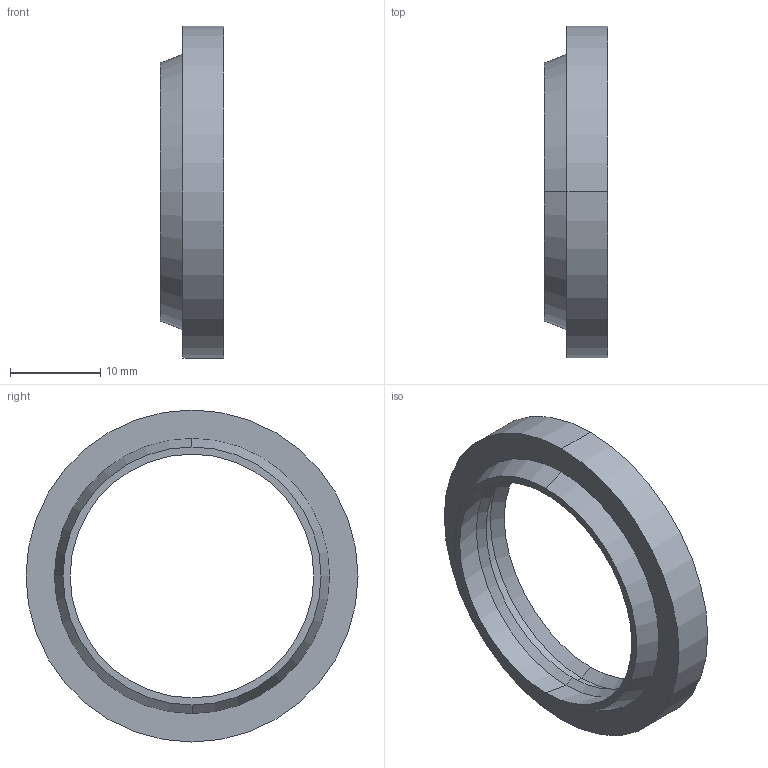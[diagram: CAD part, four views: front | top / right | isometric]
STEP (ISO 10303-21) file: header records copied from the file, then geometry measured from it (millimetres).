
FILE_DESCRIPTION (( 'STEP AP214' ), '1' );
FILE_NAME ('PAW01-27.STEP', '2011-03-11T11:57:14', ( '' ), ( '' ), 'SwSTEP 2.0', 'SolidWorks 2010', '' );
FILE_SCHEMA (( 'AUTOMOTIVE_DESIGN' ));
Length unit declared in the file: millimetre
Products named in the file (1): PAW01-27
Bounding box: 7 x 36.8 x 36.8 mm (x, y, z)
Volume: 2259.6 mm3; surface area: 2349.5 mm2
Topology: 1 solids, 1 shells, 17 faces, 34 edges, 20 vertices
Faces by surface type: cone 10, cylinder 4, plane 3
Entity records: 482 total; most frequent: DIRECTION 90, CARTESIAN_POINT 72, ORIENTED_EDGE 68, AXIS2_PLACEMENT_3D 38, EDGE_CURVE 34, CIRCLE 20, EDGE_LOOP 20, VERTEX_POINT 20
